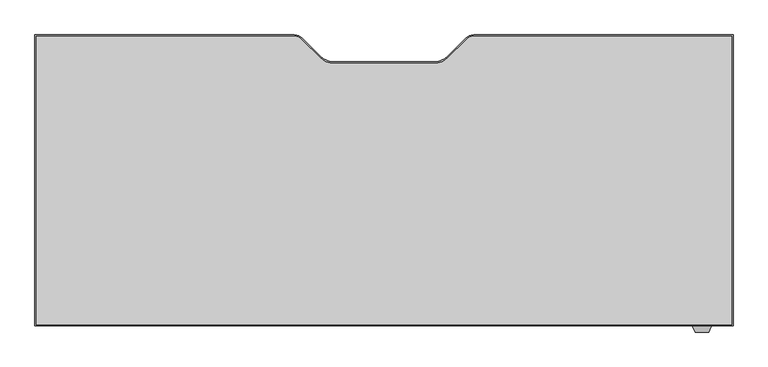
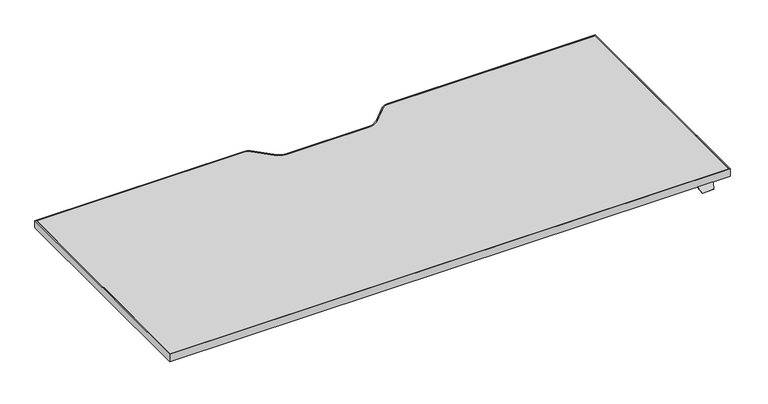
"""IFC4 building model written with IfcOpenShell, lengths in millimetres: furniture geometry, Steelcase Turnstone - Bivi - Height Adjustable Desk - C Base : 30D x 72W."""

from ifc_helpers import new_model, si_unit, point, frame, frame_2d, origin, place, context, project, spatial, polyline, circle_curve, trimmed, segment, composite_curve, outline, extrude, faceted_brep, source, transform, mapped, element, save


def furniture_b311dc7b(model_context):
    return source(origin(), model_context, "Body", "SolidModel", [
        faceted_brep([(468.4177913, -478.5301693, 760.9984131), (468.4177913, -476.0074599, 760.9984131), (468.4177913, -476.0074599, 762.4), (468.4177913, -478.5490853, 762.4), (468.4177913, -479.8594921, 761.3004382), (468.4177913, -479.8594921, 759.8829789), (418.8448135, -478.5490853, 762.4), (418.8448135, -476.0074599, 762.4), (418.8448135, -476.0074599, 760.9984131), (418.8448135, -478.5301693, 760.9984131), (418.8448135, -479.8594921, 759.8829789), (418.8448135, -479.8594921, 761.3004382), (461.4358363, -494.8323429, 748.7367246), (425.8267685, -494.8323429, 748.7367246), (425.4673686, -494.0616074, 747.9659891), (461.7952362, -494.0616074, 747.9659891)], [[[0, 1, 2, 3, 4, 5]], [[6, 7, 8, 9, 10, 11]], [[12, 13, 14, 15]], [[9, 0, 5, 15, 14, 10]], [[1, 0, 9, 8]], [[2, 1, 8, 7]], [[3, 2, 7, 6]], [[3, 6, 11, 13, 12, 4]], [[5, 4, 12, 15]], [[11, 10, 14, 13]]]),
        extrude(outline(composite_curve([segment(polyline([(-1303.6285908, 283.4509147), (-623.9070191, 283.4509147)]), True, "CONTINUOUS"), segment(trimmed(circle_curve(frame_2d((-623.9070191, 254.7489147)), 28.702), [point((-623.9070191, 283.4509147))], [point((-603.6116402, 275.0442935))], False, "CARTESIAN"), True, "CONTINUOUS"), segment(polyline([(-603.6116402, 275.0442935), (-556.0972358, 227.5298891)]), True, "CONTINUOUS"), segment(trimmed(circle_curve(frame_2d((-520.1762113, 263.4509136)), 50.8), [point((-556.0972358, 227.5298891))], [point((-520.1762113, 212.6509136))], True, "CARTESIAN"), True, "CONTINUOUS"), segment(polyline([(-520.1762113, 212.6509136), (-258.2809703, 212.6509136)]), True, "CONTINUOUS"), segment(trimmed(circle_curve(frame_2d((-258.2809703, 263.4509136)), 50.8), [point((-258.2809703, 212.6509136))], [point((-222.3599458, 227.5298891))], True, "CARTESIAN"), True, "CONTINUOUS"), segment(polyline([(-222.3599458, 227.5298891), (-174.8455414, 275.0442935)]), True, "CONTINUOUS"), segment(trimmed(circle_curve(frame_2d((-154.5501625, 254.7489147)), 28.702), [point((-174.8455414, 275.0442935))], [point((-154.5501625, 283.4509147))], False, "CARTESIAN"), True, "CONTINUOUS"), segment(polyline([(-154.5501625, 283.4509147), (525.1714092, 283.4509147), (525.1714092, -478.5490853), (-1303.6285908, -478.5490853), (-1303.6285908, 283.4509147)]), True, "CONTINUOUS")], self_intersect=False), holes=[composite_curve([segment(polyline([(-1300.2487543, 280.1489147), (-1300.2487543, -475.2470853), (521.8694092, -475.2470853), (521.8694092, 280.1489147), (-154.5501625, 280.1489147)]), True, "CONTINUOUS"), segment(trimmed(circle_curve(frame_2d((-154.5501625, 254.7489147)), 25.4), [point((-154.5501625, 280.1489147))], [point((-172.5106748, 272.7094269))], True, "CARTESIAN"), True, "CONTINUOUS"), segment(polyline([(-172.5106748, 272.7094269), (-220.527602, 224.6924998)]), True, "CONTINUOUS"), segment(trimmed(circle_curve(frame_2d((-256.4486265, 260.6135242)), 50.8), [point((-220.527602, 224.6924998))], [point((-256.4486265, 209.8135242))], False, "CARTESIAN"), True, "CONTINUOUS"), segment(polyline([(-256.4486265, 209.8135242), (-389.2285908, 209.8135242), (-522.0085552, 209.8135242)]), True, "CONTINUOUS"), segment(trimmed(circle_curve(frame_2d((-522.0085552, 260.6135242)), 50.8), [point((-522.0085552, 209.8135242))], [point((-557.9295796, 224.6924998))], False, "CARTESIAN"), True, "CONTINUOUS"), segment(polyline([(-557.9295796, 224.6924998), (-605.9465068, 272.7094269)]), True, "CONTINUOUS"), segment(trimmed(circle_curve(frame_2d((-623.9070191, 254.7489147)), 25.4), [point((-605.9465068, 272.7094269))], [point((-623.9070191, 280.1489147))], True, "CARTESIAN"), True, "CONTINUOUS"), segment(polyline([(-623.9070191, 280.1489147), (-1300.2487543, 280.1489147)]), True, "CONTINUOUS")], self_intersect=False)]), frame((0.0, 0.0, 762.4), z_axis=(0.0, 0.0, 1.0), x_axis=(1.0, 0.0, 0.0)), (0.0, 0.0, 1.0), 25.0),
        extrude(outline(composite_curve([segment(polyline([(-1300.2487543, 280.1489147), (-623.9070191, 280.1489147)]), True, "CONTINUOUS"), segment(trimmed(circle_curve(frame_2d((-623.9070191, 254.7489147)), 25.4), [point((-623.9070191, 280.1489147))], [point((-605.9465068, 272.7094269))], False, "CARTESIAN"), True, "CONTINUOUS"), segment(polyline([(-605.9465068, 272.7094269), (-557.9295796, 224.6924998)]), True, "CONTINUOUS"), segment(trimmed(circle_curve(frame_2d((-522.0085552, 260.6135242)), 50.8), [point((-557.9295796, 224.6924998))], [point((-522.0085552, 209.8135242))], True, "CARTESIAN"), True, "CONTINUOUS"), segment(polyline([(-522.0085552, 209.8135242), (-389.2285908, 209.8135242), (-256.4486265, 209.8135242)]), True, "CONTINUOUS"), segment(trimmed(circle_curve(frame_2d((-256.4486265, 260.6135242)), 50.8), [point((-256.4486265, 209.8135242))], [point((-220.527602, 224.6924998))], True, "CARTESIAN"), True, "CONTINUOUS"), segment(polyline([(-220.527602, 224.6924998), (-172.5106748, 272.7094269)]), True, "CONTINUOUS"), segment(trimmed(circle_curve(frame_2d((-154.5501625, 254.7489147)), 25.4), [point((-172.5106748, 272.7094269))], [point((-154.5501625, 280.1489147))], False, "CARTESIAN"), True, "CONTINUOUS"), segment(polyline([(-154.5501625, 280.1489147), (521.8694092, 280.1489147), (521.8694092, -475.2470853), (-1300.2487543, -475.2470853), (-1300.2487543, 280.1489147)]), True, "CONTINUOUS")], self_intersect=False)), frame((0.0, 0.0, 762.4), z_axis=(0.0, 0.0, 1.0), x_axis=(1.0, 0.0, 0.0)), (0.0, 0.0, 1.0), 25.0),
    ])


if __name__ == "__main__":
    model = new_model("IFC4")
    model_context = context("Model", 3, world=origin())
    ifc_project = project(units=[si_unit("LENGTHUNIT", "METRE", prefix="MILLI")], contexts=[model_context])
    site = spatial("IfcSite", under=ifc_project)
    building = spatial("IfcBuilding", under=site)
    placement = place(None, origin())
    furniture_shape = furniture_b311dc7b(model_context)
    element("IfcFurniture", 1, ObjectType="Steelcase Turnstone - Bivi - Height Adjustable Desk - C Base : 30D x 72W", at=placement, inside=building, context=model_context, shape_type="MappedRepresentation", body=[
        mapped(furniture_shape, transform((0.0, 0.0, 0.0), x_axis=(1.0, 0.0, 0.0), y_axis=(0.0, 1.0, 0.0), z_axis=(0.0, 0.0, 1.0))),
    ])
    save(model, "model.ifc")
